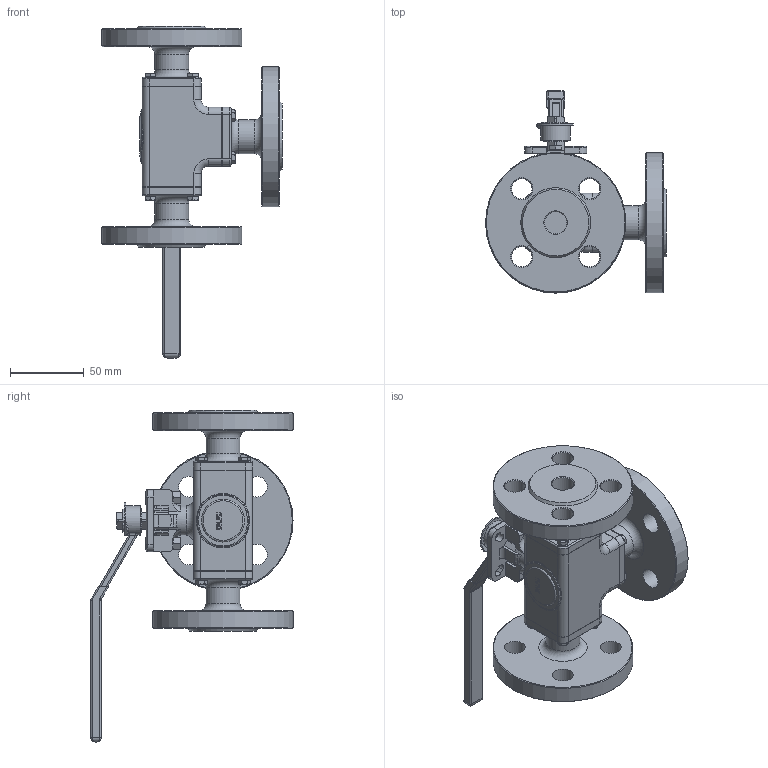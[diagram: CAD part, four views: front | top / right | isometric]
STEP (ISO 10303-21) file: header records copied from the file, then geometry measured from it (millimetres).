
FILE_DESCRIPTION(('STEP AP242'), '1');
FILE_NAME('BV3232P(4pc)-FP-3WT-F-ISO-H Êðàí øàðîâîé DN.ru Äó15 Ðó16', '', ('UNSPECIFIED'), ('UNSPECIFIED'), 'C3D Converter', 'C3D Toolkit', '');
FILE_SCHEMA(('AP242_MANAGED_MODEL_BASED_3D_ENGINEERING_MIM_LF { 1 0 10303 442 1 1 4 }'));
Length unit declared in the file: millimetre
Products named in the file (1): BV3232P(4pc)-FP-3WT-F-ISO-H
Bounding box: 122.5 x 137 x 225 mm (x, y, z)
Volume: 443428.3 mm3; surface area: 105482.4 mm2
Topology: 1 solids, 14 shells, 905 faces, 2167 edges, 1339 vertices
Faces by surface type: plane 462, cylinder 193, cone 132, bspline 74, torus 44
Full cylindrical faces by diameter (mm): 1.119 x2, 2 x1, 4 x24, 5 x14, 6 x2, 7 x12, 8 x2, 14 x12, 15 x3, 16 x2, 20 x2, 23 x3, 30 x3, 95 x3
Entity records: 44022 total; most frequent: CARTESIAN_POINT 19568, ORIENTED_EDGE 4080, DIRECTION 3934, EDGE_CURVE 2040, AXIS2_PLACEMENT_3D 1493, VERTEX_POINT 1339, EDGE_LOOP 1173, FACE_BOUND 970
